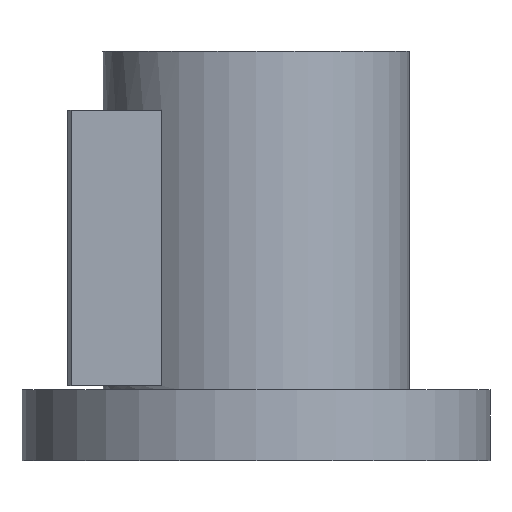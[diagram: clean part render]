
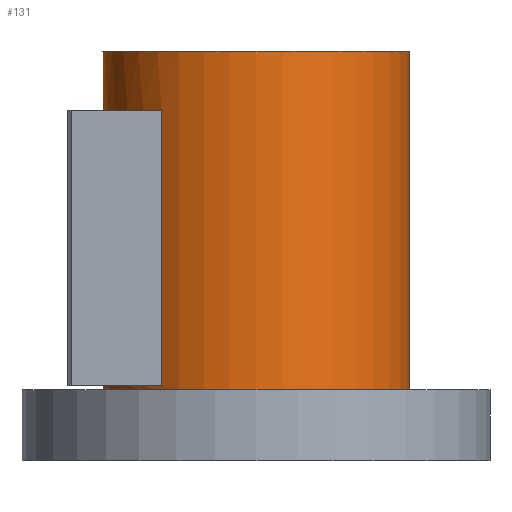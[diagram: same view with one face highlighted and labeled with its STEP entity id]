
A CAD part, front view. The second image highlights one B-rep face of the part: STEP entity #131.
In plain terms, the highlighted cylindrical face has radius 39 mm (diameter 78 mm), a full revolution.
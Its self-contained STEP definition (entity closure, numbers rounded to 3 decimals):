
#131=ADVANCED_FACE('',(#218,#219,#220),#161,.T.);
#161=CYLINDRICAL_SURFACE('',#550,39.);
#174=LINE('',#752,#196);
#175=LINE('',#756,#197);
#196=VECTOR('',#612,1.);
#197=VECTOR('',#615,1.);
#218=FACE_BOUND('',#263,.T.);
#219=FACE_BOUND('',#264,.T.);
#220=FACE_BOUND('',#265,.T.);
#263=EDGE_LOOP('',(#325));
#264=EDGE_LOOP('',(#326));
#265=EDGE_LOOP('',(#327,#328,#329,#330));
#325=ORIENTED_EDGE('',*,*,#467,.F.);
#326=ORIENTED_EDGE('',*,*,#468,.T.);
#327=ORIENTED_EDGE('',*,*,#469,.F.);
#328=ORIENTED_EDGE('',*,*,#470,.F.);
#329=ORIENTED_EDGE('',*,*,#471,.T.);
#330=ORIENTED_EDGE('',*,*,#472,.F.);
#425=VERTEX_POINT('',#746);
#426=VERTEX_POINT('',#748);
#427=VERTEX_POINT('',#750);
#428=VERTEX_POINT('',#751);
#429=VERTEX_POINT('',#753);
#430=VERTEX_POINT('',#755);
#467=EDGE_CURVE('',#425,#425,#517,.T.);
#468=EDGE_CURVE('',#426,#426,#518,.T.);
#469=EDGE_CURVE('',#427,#428,#519,.T.);
#470=EDGE_CURVE('',#429,#427,#174,.T.);
#471=EDGE_CURVE('',#429,#430,#520,.T.);
#472=EDGE_CURVE('',#428,#430,#175,.T.);
#517=CIRCLE('',#546,39.);
#518=CIRCLE('',#547,39.);
#519=CIRCLE('',#548,39.);
#520=CIRCLE('',#549,39.);
#546=AXIS2_PLACEMENT_3D('',#745,#606,#607);
#547=AXIS2_PLACEMENT_3D('',#747,#608,#609);
#548=AXIS2_PLACEMENT_3D('',#749,#610,#611);
#549=AXIS2_PLACEMENT_3D('',#754,#613,#614);
#550=AXIS2_PLACEMENT_3D('',#757,#616,#617);
#606=DIRECTION('',(0.,0.,1.));
#607=DIRECTION('',(1.,0.,0.));
#608=DIRECTION('',(0.,0.,1.));
#609=DIRECTION('',(1.,0.,0.));
#610=DIRECTION('',(0.,0.,-1.));
#611=DIRECTION('',(-1.,0.,0.));
#612=DIRECTION('',(0.,0.,1.));
#613=DIRECTION('',(0.,0.,-1.));
#614=DIRECTION('',(-1.,0.,0.));
#615=DIRECTION('',(0.,0.,-1.));
#616=DIRECTION('',(0.,0.,-1.));
#617=DIRECTION('',(-1.,0.,0.));
#745=CARTESIAN_POINT('',(0.,0.,104.));
#746=CARTESIAN_POINT('',(39.,0.,104.));
#747=CARTESIAN_POINT('',(0.,0.,18.));
#748=CARTESIAN_POINT('',(39.,0.,18.));
#749=CARTESIAN_POINT('',(0.,0.,89.));
#750=CARTESIAN_POINT('',(-24.,-30.741,89.));
#751=CARTESIAN_POINT('',(-24.,30.741,89.));
#752=CARTESIAN_POINT('',(-24.,-30.741,104.));
#753=CARTESIAN_POINT('',(-24.,-30.741,19.));
#754=CARTESIAN_POINT('',(0.,0.,19.));
#755=CARTESIAN_POINT('',(-24.,30.741,19.));
#756=CARTESIAN_POINT('',(-24.,30.741,104.));
#757=CARTESIAN_POINT('',(0.,0.,104.));
